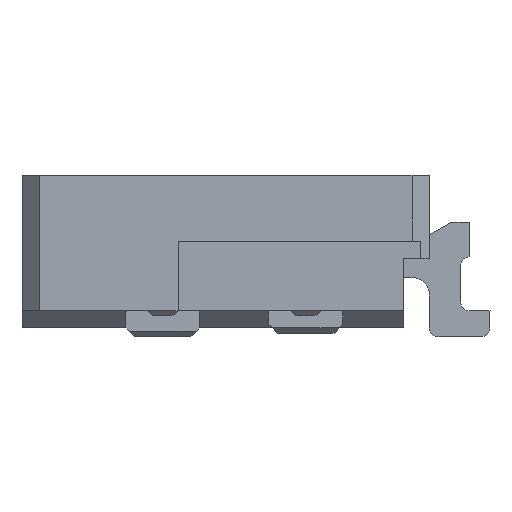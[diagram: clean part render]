
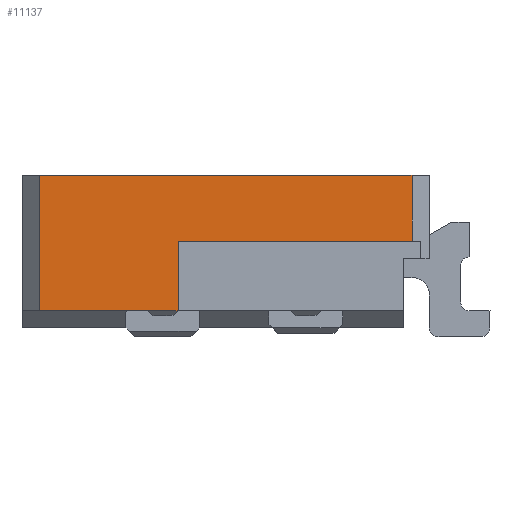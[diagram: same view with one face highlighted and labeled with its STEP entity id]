
A CAD part, left-side view. The second image highlights one B-rep face of the part: STEP entity #11137.
In plain terms, the highlighted planar face has unit normal (-1, 0, 0).
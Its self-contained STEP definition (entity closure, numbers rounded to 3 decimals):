
#333 = CARTESIAN_POINT ( 'NONE',  ( -2.25, -0.1, 0.1 ) ) ;
#498 = DIRECTION ( 'NONE',  ( 0., 0., -1. ) ) ;
#760 = VECTOR ( 'NONE', #498, 1000. ) ;
#1033 = VERTEX_POINT ( 'NONE', #333 ) ;
#1396 = VERTEX_POINT ( 'NONE', #4225 ) ;
#1536 = LINE ( 'NONE', #7887, #12403 ) ;
#1686 = CARTESIAN_POINT ( 'NONE',  ( -2.25, -0.1, 0.88 ) ) ;
#1828 = CARTESIAN_POINT ( 'NONE',  ( -2.25, -0.9, 0. ) ) ;
#2676 = ORIENTED_EDGE ( 'NONE', *, *, #6904, .F. ) ;
#3105 = CARTESIAN_POINT ( 'NONE',  ( -2.25, -0.9, 0.1 ) ) ;
#3128 = DIRECTION ( 'NONE',  ( 0., -1., 0. ) ) ;
#3153 = LINE ( 'NONE', #1828, #760 ) ;
#3311 = VERTEX_POINT ( 'NONE', #7179 ) ;
#3471 = VECTOR ( 'NONE', #3128, 1000. ) ;
#3684 = ORIENTED_EDGE ( 'NONE', *, *, #10243, .F. ) ;
#4225 = CARTESIAN_POINT ( 'NONE',  ( -2.25, -2.25, 0.5 ) ) ;
#4422 = CARTESIAN_POINT ( 'NONE',  ( -2.25, 0., 0.1 ) ) ;
#4579 = DIRECTION ( 'NONE',  ( 0., 0., -1. ) ) ;
#4669 = EDGE_LOOP ( 'NONE', ( #9654, #2676, #8001, #3684, #5059, #9953 ) ) ;
#4856 = DIRECTION ( 'NONE',  ( 0., 1., 0. ) ) ;
#4957 = EDGE_CURVE ( 'NONE', #3311, #1396, #6462, .T. ) ;
#5059 = ORIENTED_EDGE ( 'NONE', *, *, #9190, .F. ) ;
#5768 = LINE ( 'NONE', #4422, #3471 ) ;
#5911 = DIRECTION ( 'NONE',  ( -1., 0., 0. ) ) ;
#6187 = CARTESIAN_POINT ( 'NONE',  ( -2.25, 0., 0.88 ) ) ;
#6373 = VECTOR ( 'NONE', #4856, 1000. ) ;
#6462 = LINE ( 'NONE', #11546, #9442 ) ;
#6508 = DIRECTION ( 'NONE',  ( 0., 1., 0. ) ) ;
#6528 = PLANE ( 'NONE',  #12562 ) ;
#6803 = DIRECTION ( 'NONE',  ( 0., 0., 1. ) ) ;
#6904 = EDGE_CURVE ( 'NONE', #1033, #9666, #10863, .T. ) ;
#7077 = VERTEX_POINT ( 'NONE', #11089 ) ;
#7179 = CARTESIAN_POINT ( 'NONE',  ( -2.25, -2.25, 0.88 ) ) ;
#7250 = CARTESIAN_POINT ( 'NONE',  ( -2.25, 0., 0. ) ) ;
#7523 = LINE ( 'NONE', #6187, #6373 ) ;
#7887 = CARTESIAN_POINT ( 'NONE',  ( -2.25, 0., 0.5 ) ) ;
#7952 = VECTOR ( 'NONE', #6803, 1000. ) ;
#8001 = ORIENTED_EDGE ( 'NONE', *, *, #11006, .T. ) ;
#8153 = EDGE_CURVE ( 'NONE', #3311, #9666, #7523, .T. ) ;
#8178 = CARTESIAN_POINT ( 'NONE',  ( -2.25, -0.1, 1.056 ) ) ;
#8870 = FACE_OUTER_BOUND ( 'NONE', #4669, .T. ) ;
#9190 = EDGE_CURVE ( 'NONE', #1396, #7077, #1536, .T. ) ;
#9406 = VERTEX_POINT ( 'NONE', #3105 ) ;
#9442 = VECTOR ( 'NONE', #10215, 1000. ) ;
#9654 = ORIENTED_EDGE ( 'NONE', *, *, #8153, .T. ) ;
#9666 = VERTEX_POINT ( 'NONE', #1686 ) ;
#9953 = ORIENTED_EDGE ( 'NONE', *, *, #4957, .F. ) ;
#10215 = DIRECTION ( 'NONE',  ( 0., 0., -1. ) ) ;
#10243 = EDGE_CURVE ( 'NONE', #7077, #9406, #3153, .T. ) ;
#10863 = LINE ( 'NONE', #8178, #7952 ) ;
#11006 = EDGE_CURVE ( 'NONE', #1033, #9406, #5768, .T. ) ;
#11089 = CARTESIAN_POINT ( 'NONE',  ( -2.25, -0.9, 0.5 ) ) ;
#11137 = ADVANCED_FACE ( 'NONE', ( #8870 ), #6528, .T. ) ;
#11546 = CARTESIAN_POINT ( 'NONE',  ( -2.25, -2.25, 0. ) ) ;
#12403 = VECTOR ( 'NONE', #6508, 1000. ) ;
#12562 = AXIS2_PLACEMENT_3D ( 'NONE', #7250, #5911, #4579 ) ;
